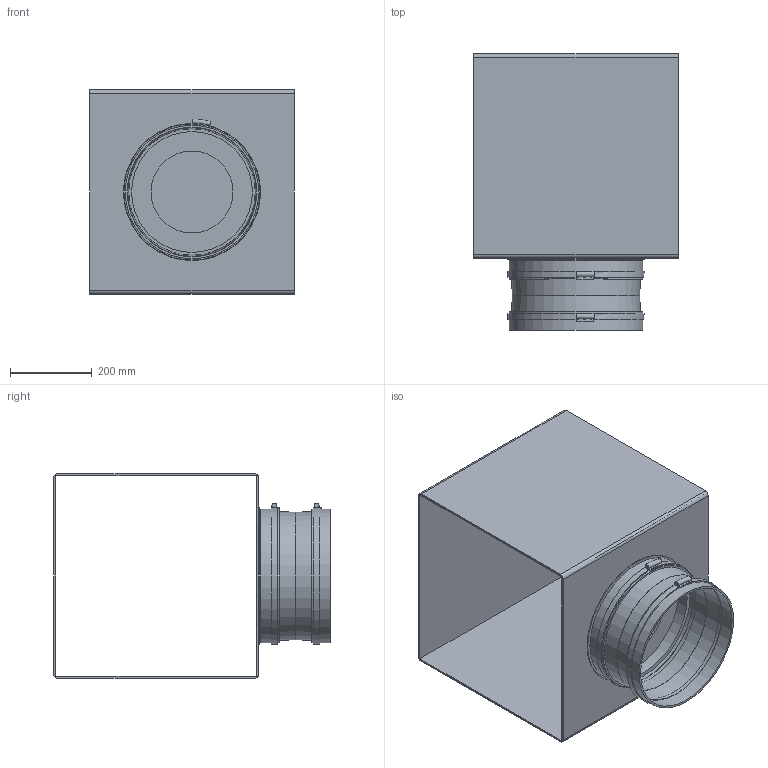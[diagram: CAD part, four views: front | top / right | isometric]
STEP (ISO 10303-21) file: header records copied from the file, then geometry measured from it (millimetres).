
FILE_DESCRIPTION(/* description */ (''),/* implementation_level */ '2;1');
FILE_NAME(/* name */ 'Z:\Output\GBW_EC_355_DoubleRadial-05809-003.stp',/* time_stamp */ '2023-02-02T08:53:20+01:00',/* author */ ('jayeshpanchal'),/* organization */ (''),/* preprocessor_version */ 'ST-DEVELOPER v18',/* originating_system */ 'Autodesk Inventor 2020',/* authorisation */ '');
FILE_SCHEMA (('AUTOMOTIVE_DESIGN { 1 0 10303 214 3 1 1 }'));
Length unit declared in the file: millimetre
Products named in the file (1): GB-3
Bounding box: 500 x 675 x 500 mm (x, y, z)
Volume: 5694922.6 mm3; surface area: 2410166.9 mm2
Topology: 4 solids, 4 shells, 61 faces, 153 edges, 109 vertices
Faces by surface type: plane 31, cylinder 24, cone 4, torus 2
Full cylindrical faces by diameter (mm): 200 x1, 295 x1, 305 x1, 315 x1, 316 x4, 325 x1, 326 x4, 332 x2, 335 x1
Entity records: 1962 total; most frequent: DIRECTION 366, CARTESIAN_POINT 324, ORIENTED_EDGE 306, EDGE_CURVE 153, AXIS2_PLACEMENT_3D 151, VERTEX_POINT 109, CIRCLE 89, EDGE_LOOP 80
